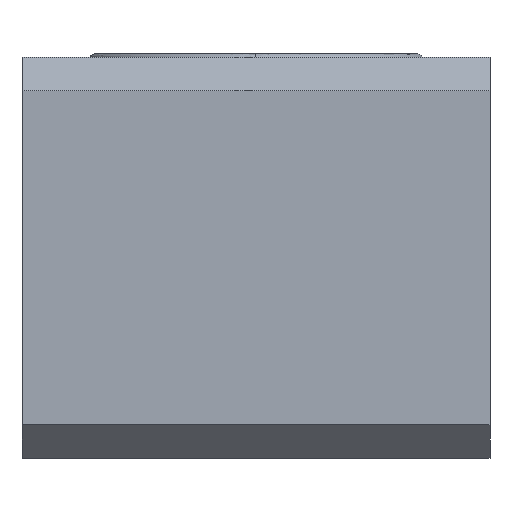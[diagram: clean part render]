
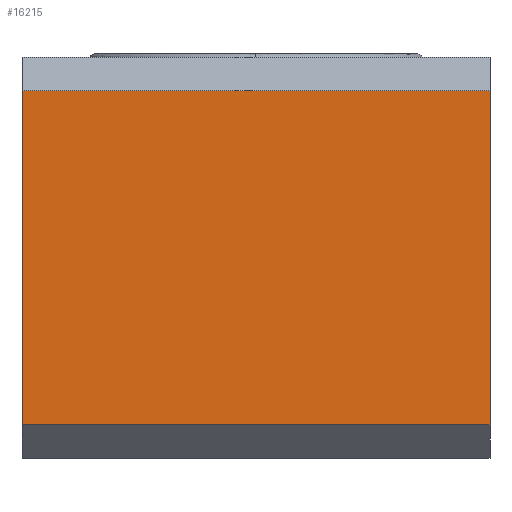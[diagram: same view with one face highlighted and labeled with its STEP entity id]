
A CAD part, front view. The second image highlights one B-rep face of the part: STEP entity #16215.
In plain terms, the highlighted planar face has unit normal (0, -1, 0).
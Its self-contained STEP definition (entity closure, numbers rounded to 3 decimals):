
#200 = CARTESIAN_POINT ( 'NONE',  ( 9.712, -5.619, -8.82 ) ) ;
#282 = LINE ( 'NONE', #11336, #16249 ) ;
#482 = DIRECTION ( 'NONE',  ( 1., 0., 0. ) ) ;
#938 = CARTESIAN_POINT ( 'NONE',  ( -4.288, -5.619, -3.82 ) ) ;
#1348 = DIRECTION ( 'NONE',  ( 0., 0., 1. ) ) ;
#2214 = EDGE_CURVE ( 'NONE', #19949, #6383, #6927, .T. ) ;
#2281 = ORIENTED_EDGE ( 'NONE', *, *, #5630, .T. ) ;
#2744 = VECTOR ( 'NONE', #15453, 1000. ) ;
#2870 = VECTOR ( 'NONE', #11618, 1000. ) ;
#3262 = ORIENTED_EDGE ( 'NONE', *, *, #10275, .F. ) ;
#4067 = AXIS2_PLACEMENT_3D ( 'NONE', #19794, #10690, #1348 ) ;
#5630 = EDGE_CURVE ( 'NONE', #19949, #15893, #11152, .T. ) ;
#6383 = VERTEX_POINT ( 'NONE', #13566 ) ;
#6927 = LINE ( 'NONE', #15217, #2744 ) ;
#9875 = ORIENTED_EDGE ( 'NONE', *, *, #13979, .T. ) ;
#10096 = CARTESIAN_POINT ( 'NONE',  ( 9.712, -5.619, -3.82 ) ) ;
#10275 = EDGE_CURVE ( 'NONE', #17961, #15893, #282, .T. ) ;
#10690 = DIRECTION ( 'NONE',  ( 0., 1., 0. ) ) ;
#11152 = LINE ( 'NONE', #10096, #2870 ) ;
#11336 = CARTESIAN_POINT ( 'NONE',  ( 2.712, -5.619, 1.18 ) ) ;
#11618 = DIRECTION ( 'NONE',  ( 0., 0., 1. ) ) ;
#11727 = FACE_OUTER_BOUND ( 'NONE', #15890, .T. ) ;
#11736 = DIRECTION ( 'NONE',  ( 0., 0., -1. ) ) ;
#12131 = PLANE ( 'NONE',  #4067 ) ;
#12206 = ORIENTED_EDGE ( 'NONE', *, *, #2214, .F. ) ;
#13566 = CARTESIAN_POINT ( 'NONE',  ( -4.288, -5.619, -8.82 ) ) ;
#13979 = EDGE_CURVE ( 'NONE', #17961, #6383, #15017, .T. ) ;
#15017 = LINE ( 'NONE', #938, #19058 ) ;
#15217 = CARTESIAN_POINT ( 'NONE',  ( 2.712, -5.619, -8.82 ) ) ;
#15453 = DIRECTION ( 'NONE',  ( -1., 0., 0. ) ) ;
#15847 = CARTESIAN_POINT ( 'NONE',  ( 9.712, -5.619, 1.18 ) ) ;
#15890 = EDGE_LOOP ( 'NONE', ( #12206, #2281, #3262, #9875 ) ) ;
#15893 = VERTEX_POINT ( 'NONE', #15847 ) ;
#15896 = CARTESIAN_POINT ( 'NONE',  ( -4.288, -5.619, 1.18 ) ) ;
#16215 = ADVANCED_FACE ( 'NONE', ( #11727 ), #12131, .F. ) ;
#16249 = VECTOR ( 'NONE', #482, 1000. ) ;
#17961 = VERTEX_POINT ( 'NONE', #15896 ) ;
#19058 = VECTOR ( 'NONE', #11736, 1000. ) ;
#19794 = CARTESIAN_POINT ( 'NONE',  ( -4.288, -5.619, -8.82 ) ) ;
#19949 = VERTEX_POINT ( 'NONE', #200 ) ;
